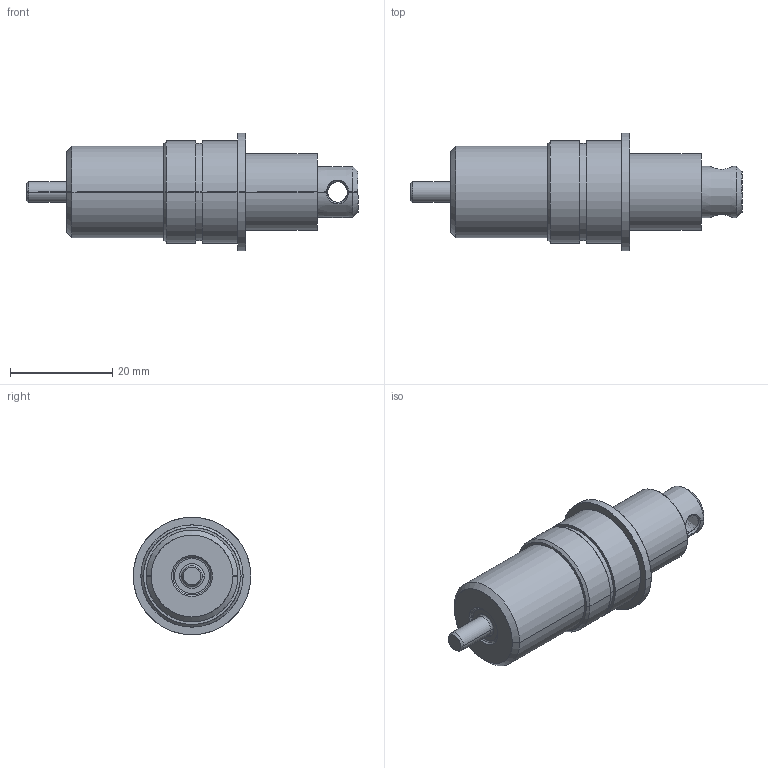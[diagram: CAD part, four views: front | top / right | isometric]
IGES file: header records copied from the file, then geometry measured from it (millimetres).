
Start section: SolidWorks IGES file using analytic representation for surfaces
Global section: file name: T:\DM\Intern\Examens\Locker\2022\TPP22\Documents de préparation\TPP_LS-01-01-003.IGS; native system: SolidWorks 2021; preprocessor: SolidWorks 2021; author: julie; date: 211026.140207; units: millimetre
Bounding box: 65 x 23 x 23 mm (x, y, z)
Surface area: 4015.9 mm2 (no closed solid volume)
Topology: 0 solids, 0 shells, 46 faces, 789 edges, 789 vertices
Faces by surface type: revolution 28, bspline 18
